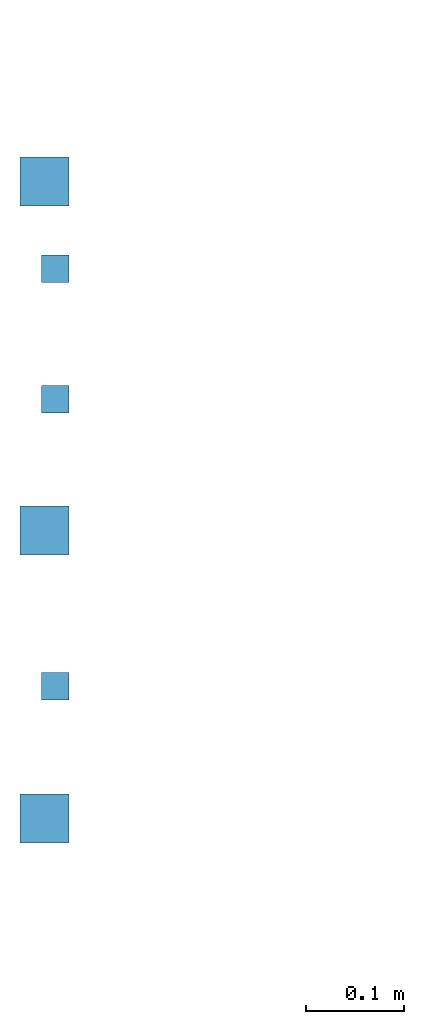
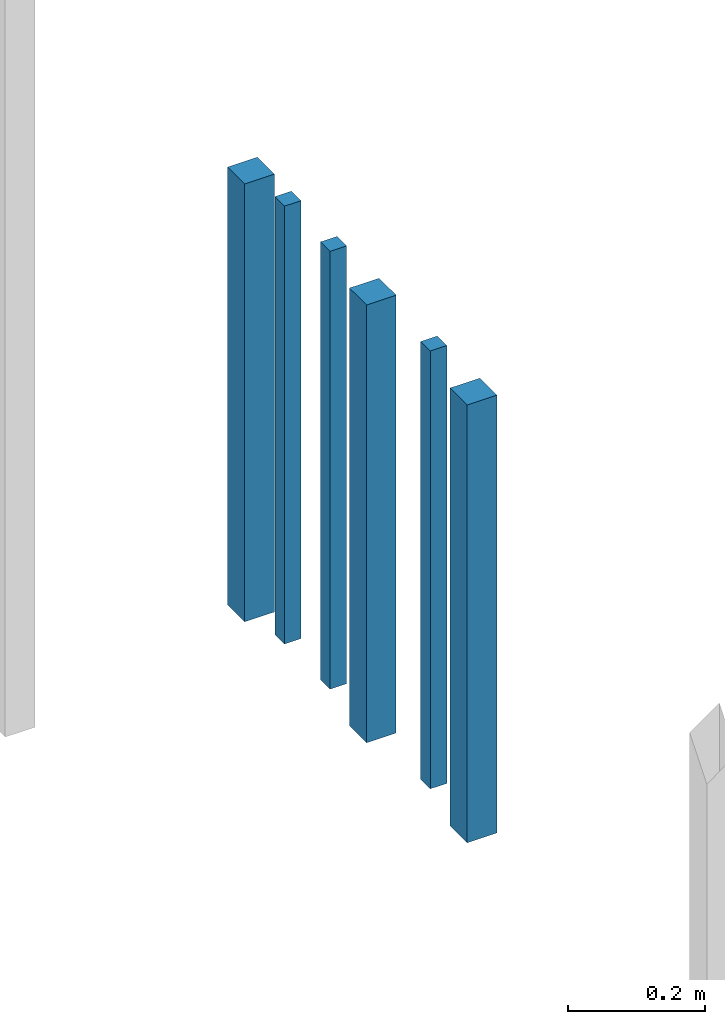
# One storey, part 86 of 124: 6 walls.
"""IFC2X3 building model written with IfcOpenShell, lengths in millimetres."""

from ifc_helpers import new_model, entity, si_unit, converted_unit, derived_unit, money_unit, direction, frame, origin_with_axes, place, context, subcontext, project, spatial, faceted_brep, material, type_object, element, save


model = new_model("IFC2X3")

# Units and contexts
model_context = context("Model", 3, precision=1e-05, world=origin_with_axes(), true_north=direction((0.0, 1.0)))
body_context = subcontext(model_context, "Body", "Model", "MODEL_VIEW")
ifc_project = project(units=[si_unit("LENGTHUNIT", "METRE", prefix="MILLI"), si_unit("AREAUNIT", "SQUARE_METRE"), si_unit("VOLUMEUNIT", "CUBIC_METRE"), converted_unit("PLANEANGLEUNIT", "DEGREE", entity("IfcPlaneAngleMeasure", 0.0174532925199), si_unit("PLANEANGLEUNIT", "RADIAN"), dimensions=[0, 0, 0, 0, 0, 0, 0]), si_unit("SOLIDANGLEUNIT", "STERADIAN"), money_unit("EUR"), converted_unit("TIMEUNIT", "Year", entity("IfcTimeMeasure", 31556926.0), si_unit("TIMEUNIT", "SECOND"), dimensions=[0, 0, 1, 0, 0, 0, 0]), si_unit("MASSUNIT", "GRAM", prefix="KILO"), si_unit("THERMODYNAMICTEMPERATUREUNIT", "DEGREE_CELSIUS"), si_unit("LUMINOUSINTENSITYUNIT", "LUMEN"), si_unit("ENERGYUNIT", "JOULE", prefix="MEGA"), derived_unit("THERMALCONDUCTANCEUNIT", [(si_unit("POWERUNIT", "WATT"), 1), (si_unit("LENGTHUNIT", "METRE"), -1), (si_unit("THERMODYNAMICTEMPERATUREUNIT", "KELVIN"), -1)]), derived_unit("SPECIFICHEATCAPACITYUNIT", [(si_unit("ENERGYUNIT", "JOULE"), 1), (si_unit("MASSUNIT", "GRAM", prefix="KILO"), -1), (si_unit("THERMODYNAMICTEMPERATUREUNIT", "KELVIN"), -1)]), derived_unit("MASSDENSITYUNIT", [(si_unit("MASSUNIT", "GRAM", prefix="KILO"), 1), (si_unit("VOLUMEUNIT", "CUBIC_METRE"), -1)])], contexts=[model_context])

# Site, building, storey
site_placement = place(None, origin_with_axes())
site = spatial("IfcSite", under=ifc_project, at=site_placement, Name="Site", CompositionType="ELEMENT")
building_placement = place(site_placement, origin_with_axes())
building = spatial("IfcBuilding", under=site, at=building_placement, Name="Building", CompositionType="ELEMENT")
storey_placement = place(building_placement, frame((0.0, 0.0, -1615.0), z_axis=(0.0, 0.0, 1.0), x_axis=(1.0, 0.0, 0.0)))
storey = spatial("IfcBuildingStorey", under=building, at=storey_placement, Name="0  korrus", CompositionType="ELEMENT", Elevation=-1615.0)

# Walls
ifc_material = material(Name="Site specified")
wall_type = type_object("IfcWallType", Name="Puitfassaadi ribistik", PredefinedType="NOTDEFINED")
wall_1_placement = place(storey_placement, frame((122398.999977, 63293.0209883, 6039.99966101), z_axis=(0.0, 0.0, 1.0), x_axis=(-5.16795809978e-08, 1.0, 0.0)))
element("IfcWall", 1, at=wall_1_placement, inside=storey, type_object=wall_type, material=ifc_material, Name="Site specified", context=body_context, shape_type="Brep", body=[
    faceted_brep([(14.0, 14.0, 781.000338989), (14.0, 14.0, 0.0), (-14.0, 14.0, 0.0), (-14.0, 14.0, 781.000338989), (14.0, -14.0, 781.000338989), (14.0, -14.0, 0.0), (-14.0, -14.0, 0.0), (-14.0, -14.0, 781.000338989)], [[[0, 1, 2, 3]], [[4, 5, 1, 0]], [[2, 1, 5, 6]], [[3, 2, 6, 7]], [[4, 0, 3, 7]], [[7, 6, 5, 4]]]),
])
for number, where, z_axis, x_axis, name in (
    (2, (122387.999965, 63515.0241573, 6039.99966101), (0.0, 0.0, 1.0), (-5.16795809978e-08, 1.0, 0.0), "Site specified"),
    (3, (122387.999984, 63159.018524, 6039.99966101), (0.0, 0.0, 1.0), (-5.16795809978e-08, 1.0, 0.0), "Site specified"),
):
    element("IfcWall", number, at=place(storey_placement, frame(where, z_axis=z_axis, x_axis=x_axis)), inside=storey, type_object=wall_type, material=ifc_material, Name=name, context=body_context, shape_type="Brep", body=[
        faceted_brep([(25.0, 25.0, 781.000338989), (25.0, 25.0, 0.0), (-25.0, 25.0, 0.0), (-25.0, 25.0, 781.000338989), (25.0, -25.0, 781.000338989), (25.0, -25.0, 0.0), (-25.0, -25.0, 0.0), (-25.0, -25.0, 781.000338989)], [[[0, 1, 2, 3]], [[4, 5, 1, 0]], [[2, 1, 5, 6]], [[3, 2, 6, 7]], [[4, 0, 3, 7]], [[7, 6, 5, 4]]]),
    ])
wall_2_placement = place(storey_placement, frame((122398.99997, 63426.0209875, 6039.99966101), z_axis=(0.0, 0.0, 1.0), x_axis=(-5.16795809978e-08, 1.0, 0.0)))
element("IfcWall", 4, at=wall_2_placement, inside=storey, type_object=wall_type, material=ifc_material, Name="Site specified", context=body_context, shape_type="Brep", body=[
    faceted_brep([(14.0, 14.0, 781.000338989), (14.0, 14.0, 0.0), (-14.0, 14.0, 0.0), (-14.0, 14.0, 781.000338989), (14.0, -14.0, 781.000338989), (14.0, -14.0, 0.0), (-14.0, -14.0, 0.0), (-14.0, -14.0, 781.000338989)], [[[0, 1, 2, 3]], [[4, 5, 1, 0]], [[2, 1, 5, 6]], [[3, 2, 6, 7]], [[4, 0, 3, 7]], [[7, 6, 5, 4]]]),
])
wall_3_placement = place(storey_placement, frame((122387.999999, 62865.0185262, 6039.99966101), z_axis=(0.0, 0.0, 1.0), x_axis=(-5.16795809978e-08, 1.0, 0.0)))
element("IfcWall", 5, at=wall_3_placement, inside=storey, type_object=wall_type, material=ifc_material, Name="Site specified", context=body_context, shape_type="Brep", body=[
    faceted_brep([(25.0, 25.0, 781.000338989), (25.0, 25.0, 0.0), (-25.0, 25.0, 0.0), (-25.0, 25.0, 781.000338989), (25.0, -25.0, 781.000338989), (25.0, -25.0, 0.0), (-25.0, -25.0, 0.0), (-25.0, -25.0, 781.000338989)], [[[0, 1, 2, 3]], [[4, 5, 1, 0]], [[2, 1, 5, 6]], [[3, 2, 6, 7]], [[4, 0, 3, 7]], [[7, 6, 5, 4]]]),
])
wall_4_placement = place(storey_placement, frame((122398.999992, 63000.0210172, 6039.99966101), z_axis=(0.0, 0.0, 1.0), x_axis=(-5.16795809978e-08, 1.0, 0.0)))
element("IfcWall", 6, at=wall_4_placement, inside=storey, type_object=wall_type, material=ifc_material, Name="Site specified", context=body_context, shape_type="Brep", body=[
    faceted_brep([(14.0, 14.0, 781.000338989), (14.0, 14.0, 0.0), (-14.0, 14.0, 0.0), (-14.0, 14.0, 781.000338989), (14.0, -14.0, 781.000338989), (14.0, -14.0, 0.0), (-14.0, -14.0, 0.0), (-14.0, -14.0, 781.000338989)], [[[0, 1, 2, 3]], [[4, 5, 1, 0]], [[2, 1, 5, 6]], [[3, 2, 6, 7]], [[4, 0, 3, 7]], [[7, 6, 5, 4]]]),
])

save(model, "model.ifc")
